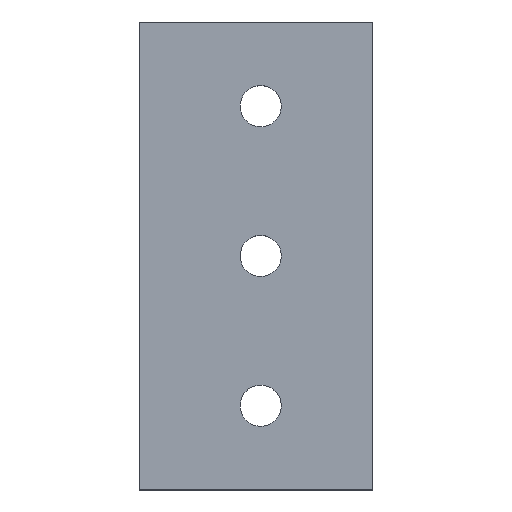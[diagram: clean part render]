
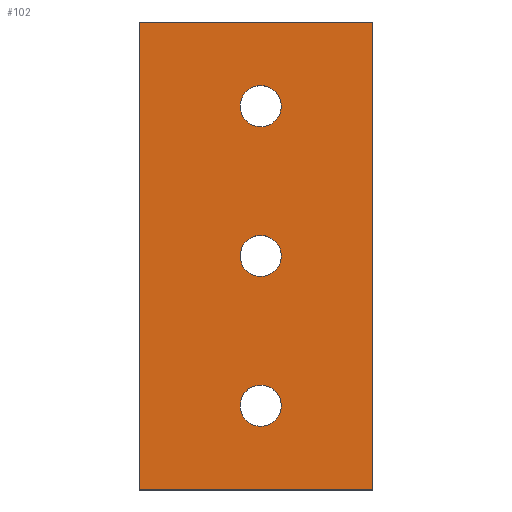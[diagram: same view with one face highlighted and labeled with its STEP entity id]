
A CAD part, top view. The second image highlights one B-rep face of the part: STEP entity #102.
In plain terms, the highlighted planar face has unit normal (0, 0, 1).
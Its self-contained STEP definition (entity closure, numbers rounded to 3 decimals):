
#2 = CARTESIAN_POINT ( 'NONE',  ( 62.5, 250., 30. ) ) ;
#11 = EDGE_CURVE ( 'NONE', #190, #66, #377, .T. ) ;
#12 = EDGE_CURVE ( 'NONE', #312, #107, #422, .T. ) ;
#13 = FACE_BOUND ( 'NONE', #301, .T. ) ;
#14 = ORIENTED_EDGE ( 'NONE', *, *, #375, .F. ) ;
#23 = VERTEX_POINT ( 'NONE', #251 ) ;
#26 = DIRECTION ( 'NONE',  ( 0., 1., 0. ) ) ;
#27 = CARTESIAN_POINT ( 'NONE',  ( 0., 0., 30. ) ) ;
#30 = CARTESIAN_POINT ( 'NONE',  ( 54., 45., 30. ) ) ;
#37 = CARTESIAN_POINT ( 'NONE',  ( 65., 205., 30. ) ) ;
#45 = DIRECTION ( 'NONE',  ( 0., 0., 1. ) ) ;
#48 = AXIS2_PLACEMENT_3D ( 'NONE', #37, #100, #86 ) ;
#57 = DIRECTION ( 'NONE',  ( 1., 0., 0. ) ) ;
#62 = VECTOR ( 'NONE', #26, 1000. ) ;
#65 = VERTEX_POINT ( 'NONE', #139 ) ;
#66 = VERTEX_POINT ( 'NONE', #414 ) ;
#67 = VERTEX_POINT ( 'NONE', #27 ) ;
#71 = EDGE_CURVE ( 'NONE', #112, #23, #186, .T. ) ;
#83 = CIRCLE ( 'NONE', #286, 11. ) ;
#85 = FACE_BOUND ( 'NONE', #320, .T. ) ;
#86 = DIRECTION ( 'NONE',  ( 1., 0., 0. ) ) ;
#87 = DIRECTION ( 'NONE',  ( 0., 0., 1. ) ) ;
#91 = DIRECTION ( 'NONE',  ( 0., 0., 1. ) ) ;
#92 = CIRCLE ( 'NONE', #199, 11. ) ;
#100 = DIRECTION ( 'NONE',  ( 0., 0., 1. ) ) ;
#102 = ADVANCED_FACE ( 'NONE', ( #170, #13, #356, #85 ), #285, .T. ) ;
#107 = VERTEX_POINT ( 'NONE', #355 ) ;
#111 = CARTESIAN_POINT ( 'NONE',  ( 125., 0., 30. ) ) ;
#112 = VERTEX_POINT ( 'NONE', #218 ) ;
#114 = EDGE_CURVE ( 'NONE', #67, #231, #252, .T. ) ;
#118 = AXIS2_PLACEMENT_3D ( 'NONE', #323, #330, #288 ) ;
#135 = LINE ( 'NONE', #238, #62 ) ;
#137 = ORIENTED_EDGE ( 'NONE', *, *, #395, .F. ) ;
#139 = CARTESIAN_POINT ( 'NONE',  ( 76., 125., 30. ) ) ;
#143 = CARTESIAN_POINT ( 'NONE',  ( 65., 45., 30. ) ) ;
#144 = CARTESIAN_POINT ( 'NONE',  ( 0., 0., 30. ) ) ;
#147 = DIRECTION ( 'NONE',  ( 1., 0., 0. ) ) ;
#149 = ORIENTED_EDGE ( 'NONE', *, *, #11, .F. ) ;
#151 = ORIENTED_EDGE ( 'NONE', *, *, #202, .F. ) ;
#156 = CARTESIAN_POINT ( 'NONE',  ( 54., 125., 30. ) ) ;
#158 = AXIS2_PLACEMENT_3D ( 'NONE', #143, #91, #293 ) ;
#170 = FACE_OUTER_BOUND ( 'NONE', #278, .T. ) ;
#178 = CARTESIAN_POINT ( 'NONE',  ( 65., 125., 30. ) ) ;
#184 = DIRECTION ( 'NONE',  ( 1., 0., 0. ) ) ;
#186 = LINE ( 'NONE', #2, #270 ) ;
#190 = VERTEX_POINT ( 'NONE', #265 ) ;
#196 = CARTESIAN_POINT ( 'NONE',  ( 62.5, 0., 30. ) ) ;
#199 = AXIS2_PLACEMENT_3D ( 'NONE', #259, #45, #147 ) ;
#202 = EDGE_CURVE ( 'NONE', #66, #190, #306, .T. ) ;
#211 = DIRECTION ( 'NONE',  ( 0., 0., 1. ) ) ;
#218 = CARTESIAN_POINT ( 'NONE',  ( 125., 250., 30. ) ) ;
#231 = VERTEX_POINT ( 'NONE', #111 ) ;
#232 = ORIENTED_EDGE ( 'NONE', *, *, #12, .F. ) ;
#238 = CARTESIAN_POINT ( 'NONE',  ( 125., 125., 30. ) ) ;
#244 = DIRECTION ( 'NONE',  ( 1., 0., 0. ) ) ;
#245 = ORIENTED_EDGE ( 'NONE', *, *, #250, .T. ) ;
#247 = DIRECTION ( 'NONE',  ( 0., -1., 0. ) ) ;
#250 = EDGE_CURVE ( 'NONE', #231, #112, #135, .T. ) ;
#251 = CARTESIAN_POINT ( 'NONE',  ( 0., 250., 30. ) ) ;
#252 = LINE ( 'NONE', #196, #417 ) ;
#259 = CARTESIAN_POINT ( 'NONE',  ( 65., 125., 30. ) ) ;
#265 = CARTESIAN_POINT ( 'NONE',  ( 76., 205., 30. ) ) ;
#270 = VECTOR ( 'NONE', #291, 1000. ) ;
#273 = DIRECTION ( 'NONE',  ( 0., 0., 1. ) ) ;
#278 = EDGE_LOOP ( 'NONE', ( #365, #245, #354, #406 ) ) ;
#280 = CARTESIAN_POINT ( 'NONE',  ( 0., 125., 30. ) ) ;
#285 = PLANE ( 'NONE',  #344 ) ;
#286 = AXIS2_PLACEMENT_3D ( 'NONE', #178, #211, #309 ) ;
#288 = DIRECTION ( 'NONE',  ( 1., 0., 0. ) ) ;
#291 = DIRECTION ( 'NONE',  ( -1., 0., 0. ) ) ;
#293 = DIRECTION ( 'NONE',  ( 1., 0., 0. ) ) ;
#300 = EDGE_CURVE ( 'NONE', #65, #322, #92, .T. ) ;
#301 = EDGE_LOOP ( 'NONE', ( #151, #149 ) ) ;
#306 = CIRCLE ( 'NONE', #48, 11. ) ;
#309 = DIRECTION ( 'NONE',  ( 1., 0., 0. ) ) ;
#312 = VERTEX_POINT ( 'NONE', #30 ) ;
#320 = EDGE_LOOP ( 'NONE', ( #232, #137 ) ) ;
#322 = VERTEX_POINT ( 'NONE', #156 ) ;
#323 = CARTESIAN_POINT ( 'NONE',  ( 65., 205., 30. ) ) ;
#329 = VECTOR ( 'NONE', #247, 1000. ) ;
#330 = DIRECTION ( 'NONE',  ( 0., 0., 1. ) ) ;
#338 = CIRCLE ( 'NONE', #378, 11. ) ;
#344 = AXIS2_PLACEMENT_3D ( 'NONE', #144, #87, #57 ) ;
#354 = ORIENTED_EDGE ( 'NONE', *, *, #71, .T. ) ;
#355 = CARTESIAN_POINT ( 'NONE',  ( 76., 45., 30. ) ) ;
#356 = FACE_BOUND ( 'NONE', #357, .T. ) ;
#357 = EDGE_LOOP ( 'NONE', ( #14, #418 ) ) ;
#365 = ORIENTED_EDGE ( 'NONE', *, *, #114, .T. ) ;
#375 = EDGE_CURVE ( 'NONE', #322, #65, #83, .T. ) ;
#377 = CIRCLE ( 'NONE', #118, 11. ) ;
#378 = AXIS2_PLACEMENT_3D ( 'NONE', #410, #273, #244 ) ;
#395 = EDGE_CURVE ( 'NONE', #107, #312, #338, .T. ) ;
#406 = ORIENTED_EDGE ( 'NONE', *, *, #416, .T. ) ;
#410 = CARTESIAN_POINT ( 'NONE',  ( 65., 45., 30. ) ) ;
#413 = LINE ( 'NONE', #280, #329 ) ;
#414 = CARTESIAN_POINT ( 'NONE',  ( 54., 205., 30. ) ) ;
#416 = EDGE_CURVE ( 'NONE', #23, #67, #413, .T. ) ;
#417 = VECTOR ( 'NONE', #184, 1000. ) ;
#418 = ORIENTED_EDGE ( 'NONE', *, *, #300, .F. ) ;
#422 = CIRCLE ( 'NONE', #158, 11. ) ;
